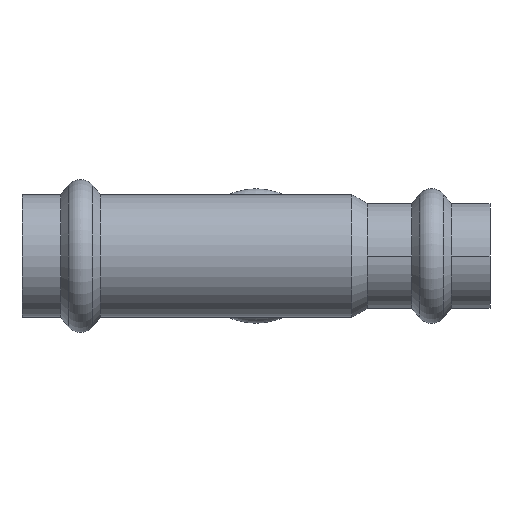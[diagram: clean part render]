
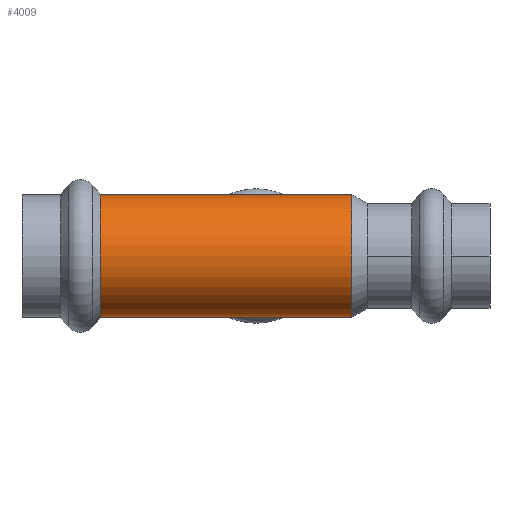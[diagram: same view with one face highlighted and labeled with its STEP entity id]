
A CAD part, front view. The second image highlights one B-rep face of the part: STEP entity #4009.
In plain terms, the highlighted cylindrical face has radius 10.5 mm (diameter 21 mm), a partial arc.
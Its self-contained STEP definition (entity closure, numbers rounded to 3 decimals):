
#252 = EDGE_CURVE ( 'NONE', #1304, #1932, #1351, .T. ) ;
#290 = AXIS2_PLACEMENT_3D ( 'NONE', #1228, #3568, #1579 ) ;
#339 = VECTOR ( 'NONE', #3794, 1000. ) ;
#360 = VERTEX_POINT ( 'NONE', #542 ) ;
#447 = CIRCLE ( 'NONE', #3364, 10.5 ) ;
#486 = CARTESIAN_POINT ( 'NONE',  ( -26.59, 0., 10.5 ) ) ;
#496 = EDGE_CURVE ( 'NONE', #1833, #360, #3927, .T. ) ;
#542 = CARTESIAN_POINT ( 'NONE',  ( -26.59, 0., -10.5 ) ) ;
#920 = CIRCLE ( 'NONE', #290, 10.5 ) ;
#1044 = EDGE_CURVE ( 'NONE', #1932, #360, #920, .T. ) ;
#1228 = CARTESIAN_POINT ( 'NONE',  ( -26.59, 0., 0. ) ) ;
#1304 = VERTEX_POINT ( 'NONE', #1360 ) ;
#1351 = LINE ( 'NONE', #4137, #339 ) ;
#1360 = CARTESIAN_POINT ( 'NONE',  ( 16.36, 0., 10.5 ) ) ;
#1466 = CARTESIAN_POINT ( 'NONE',  ( 16.36, 0., 0. ) ) ;
#1507 = AXIS2_PLACEMENT_3D ( 'NONE', #4062, #2107, #3743 ) ;
#1545 = EDGE_CURVE ( 'NONE', #1304, #1833, #447, .T. ) ;
#1579 = DIRECTION ( 'NONE',  ( 0., 0., 1. ) ) ;
#1630 = ORIENTED_EDGE ( 'NONE', *, *, #1545, .F. ) ;
#1736 = EDGE_LOOP ( 'NONE', ( #3812, #1630, #3235, #3818 ) ) ;
#1804 = DIRECTION ( 'NONE',  ( 0., 0., 1. ) ) ;
#1833 = VERTEX_POINT ( 'NONE', #3783 ) ;
#1874 = CYLINDRICAL_SURFACE ( 'NONE', #1507, 10.5 ) ;
#1932 = VERTEX_POINT ( 'NONE', #486 ) ;
#2107 = DIRECTION ( 'NONE',  ( -1., 0., 0. ) ) ;
#2744 = CARTESIAN_POINT ( 'NONE',  ( -58.611, 0., -10.5 ) ) ;
#3063 = VECTOR ( 'NONE', #3785, 1000. ) ;
#3235 = ORIENTED_EDGE ( 'NONE', *, *, #252, .T. ) ;
#3364 = AXIS2_PLACEMENT_3D ( 'NONE', #1466, #3777, #1804 ) ;
#3568 = DIRECTION ( 'NONE',  ( 1., 0., 0. ) ) ;
#3625 = FACE_OUTER_BOUND ( 'NONE', #1736, .T. ) ;
#3743 = DIRECTION ( 'NONE',  ( 0., 0., 1. ) ) ;
#3777 = DIRECTION ( 'NONE',  ( 1., 0., 0. ) ) ;
#3783 = CARTESIAN_POINT ( 'NONE',  ( 16.36, 0., -10.5 ) ) ;
#3785 = DIRECTION ( 'NONE',  ( -1., 0., 0. ) ) ;
#3794 = DIRECTION ( 'NONE',  ( -1., 0., 0. ) ) ;
#3812 = ORIENTED_EDGE ( 'NONE', *, *, #496, .F. ) ;
#3818 = ORIENTED_EDGE ( 'NONE', *, *, #1044, .T. ) ;
#3927 = LINE ( 'NONE', #2744, #3063 ) ;
#4009 = ADVANCED_FACE ( 'NONE', ( #3625 ), #1874, .T. ) ;
#4062 = CARTESIAN_POINT ( 'NONE',  ( -58.611, 0., 0. ) ) ;
#4137 = CARTESIAN_POINT ( 'NONE',  ( -58.611, 0., 10.5 ) ) ;
